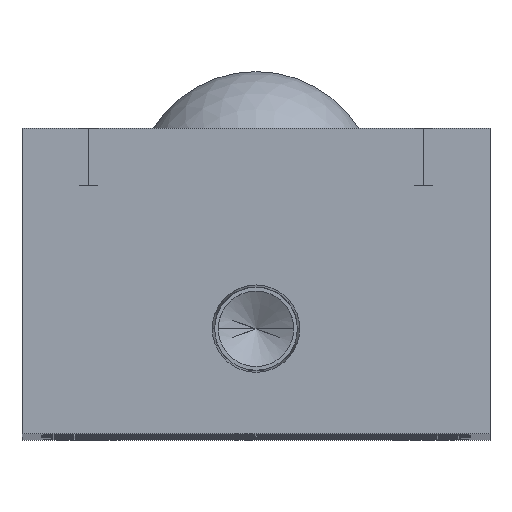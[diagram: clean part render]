
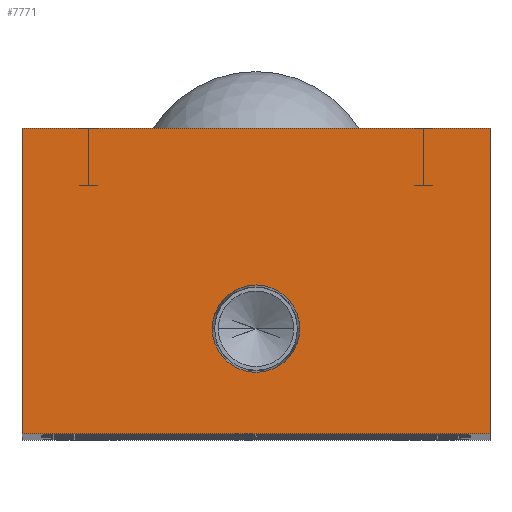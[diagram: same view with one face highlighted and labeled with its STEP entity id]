
A CAD part, top view. The second image highlights one B-rep face of the part: STEP entity #7771.
In plain terms, the highlighted planar face has unit normal (0, 0, 1).
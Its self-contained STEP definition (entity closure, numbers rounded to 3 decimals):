
#139 = CIRCLE ( 'NONE', #3347, 4.574 ) ;
#503 = DIRECTION ( 'NONE',  ( 1., 0., 0. ) ) ;
#538 = VECTOR ( 'NONE', #4172, 1000. ) ;
#682 = VERTEX_POINT ( 'NONE', #6364 ) ;
#754 = VERTEX_POINT ( 'NONE', #2143 ) ;
#1169 = PLANE ( 'NONE',  #6402 ) ;
#1250 = VERTEX_POINT ( 'NONE', #8660 ) ;
#1332 = LINE ( 'NONE', #1965, #4967 ) ;
#1965 = CARTESIAN_POINT ( 'NONE',  ( 24.5, 0., 0. ) ) ;
#1994 = EDGE_CURVE ( 'NONE', #754, #682, #8881, .T. ) ;
#2143 = CARTESIAN_POINT ( 'NONE',  ( 4.574, 11., 0. ) ) ;
#2359 = CARTESIAN_POINT ( 'NONE',  ( 24.5, 32., 0. ) ) ;
#2584 = FACE_BOUND ( 'NONE', #5143, .T. ) ;
#2663 = CARTESIAN_POINT ( 'NONE',  ( 0., 11., 0. ) ) ;
#2702 = CARTESIAN_POINT ( 'NONE',  ( 0., 11., 0. ) ) ;
#2727 = ORIENTED_EDGE ( 'NONE', *, *, #8497, .T. ) ;
#2748 = VERTEX_POINT ( 'NONE', #6078 ) ;
#2990 = ORIENTED_EDGE ( 'NONE', *, *, #4652, .T. ) ;
#3056 = EDGE_LOOP ( 'NONE', ( #8269, #2990, #7703, #2727 ) ) ;
#3090 = EDGE_CURVE ( 'NONE', #2748, #5524, #4462, .T. ) ;
#3151 = AXIS2_PLACEMENT_3D ( 'NONE', #2663, #7727, #3397 ) ;
#3347 = AXIS2_PLACEMENT_3D ( 'NONE', #2702, #7765, #3428 ) ;
#3397 = DIRECTION ( 'NONE',  ( 1., 0., 0. ) ) ;
#3428 = DIRECTION ( 'NONE',  ( 1., 0., 0. ) ) ;
#3566 = VECTOR ( 'NONE', #7980, 1000. ) ;
#3633 = ORIENTED_EDGE ( 'NONE', *, *, #7314, .F. ) ;
#3656 = EDGE_CURVE ( 'NONE', #1250, #8752, #8862, .T. ) ;
#4172 = DIRECTION ( 'NONE',  ( -1., 0., 0. ) ) ;
#4462 = LINE ( 'NONE', #8712, #3566 ) ;
#4652 = EDGE_CURVE ( 'NONE', #5524, #1250, #1332, .T. ) ;
#4816 = DIRECTION ( 'NONE',  ( -1., 0., 0. ) ) ;
#4967 = VECTOR ( 'NONE', #503, 1000. ) ;
#5143 = EDGE_LOOP ( 'NONE', ( #8864, #3633 ) ) ;
#5226 = CARTESIAN_POINT ( 'NONE',  ( 24.5, 32., 0. ) ) ;
#5524 = VERTEX_POINT ( 'NONE', #6111 ) ;
#5942 = DIRECTION ( 'NONE',  ( 0., 1., 0. ) ) ;
#6078 = CARTESIAN_POINT ( 'NONE',  ( -24.5, 32., 0. ) ) ;
#6091 = LINE ( 'NONE', #9238, #538 ) ;
#6111 = CARTESIAN_POINT ( 'NONE',  ( -24.5, 0., 0. ) ) ;
#6364 = CARTESIAN_POINT ( 'NONE',  ( -4.574, 11., 0. ) ) ;
#6402 = AXIS2_PLACEMENT_3D ( 'NONE', #7691, #9152, #4816 ) ;
#6500 = VECTOR ( 'NONE', #5942, 1000. ) ;
#6679 = FACE_OUTER_BOUND ( 'NONE', #3056, .T. ) ;
#7314 = EDGE_CURVE ( 'NONE', #682, #754, #139, .T. ) ;
#7691 = CARTESIAN_POINT ( 'NONE',  ( 0., 0., 0. ) ) ;
#7703 = ORIENTED_EDGE ( 'NONE', *, *, #3656, .T. ) ;
#7727 = DIRECTION ( 'NONE',  ( 0., 0., 1. ) ) ;
#7765 = DIRECTION ( 'NONE',  ( 0., 0., 1. ) ) ;
#7771 = ADVANCED_FACE ( 'NONE', ( #2584, #6679 ), #1169, .F. ) ;
#7980 = DIRECTION ( 'NONE',  ( 0., -1., 0. ) ) ;
#8269 = ORIENTED_EDGE ( 'NONE', *, *, #3090, .T. ) ;
#8497 = EDGE_CURVE ( 'NONE', #8752, #2748, #6091, .T. ) ;
#8660 = CARTESIAN_POINT ( 'NONE',  ( 24.5, 0., 0. ) ) ;
#8712 = CARTESIAN_POINT ( 'NONE',  ( -24.5, 0., 0. ) ) ;
#8752 = VERTEX_POINT ( 'NONE', #2359 ) ;
#8862 = LINE ( 'NONE', #5226, #6500 ) ;
#8864 = ORIENTED_EDGE ( 'NONE', *, *, #1994, .F. ) ;
#8881 = CIRCLE ( 'NONE', #3151, 4.574 ) ;
#9152 = DIRECTION ( 'NONE',  ( 0., 0., -1. ) ) ;
#9238 = CARTESIAN_POINT ( 'NONE',  ( -24.5, 32., 0. ) ) ;
